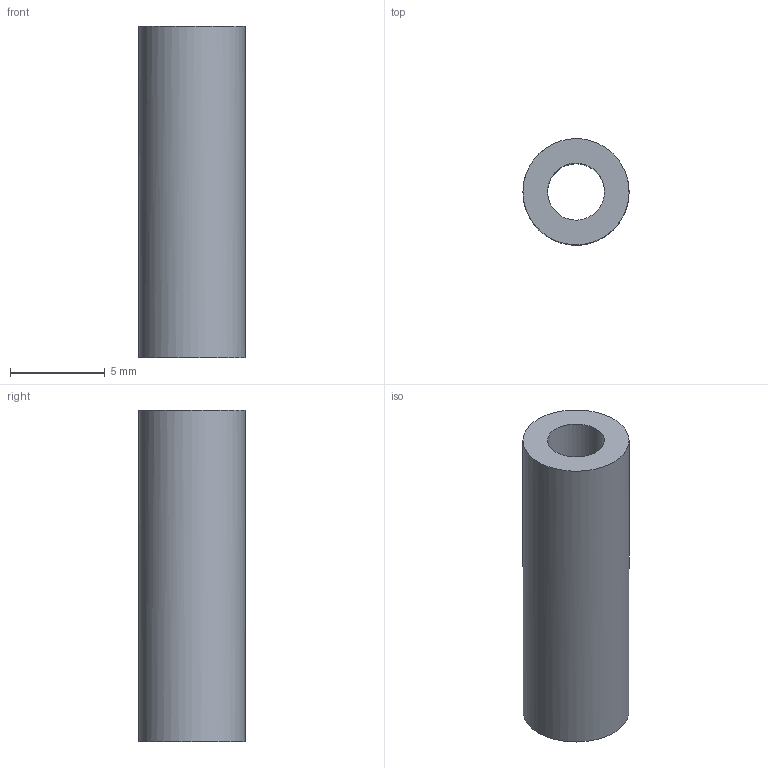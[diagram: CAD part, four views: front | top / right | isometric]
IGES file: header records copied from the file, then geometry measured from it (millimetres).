
Global section: file name: entretoise175; native system: unknown; preprocessor: unknown; author: unknown; organization: unknown; date: 20231018.113534; units: millimetre
Bounding box: 5.6 x 5.6 x 17.5 mm (x, y, z)
Volume: 307.8 mm3; surface area: 508.8 mm2
Topology: 1 solids, 1 shells, 4 faces, 6 edges, 4 vertices
Faces by surface type: bspline 4
